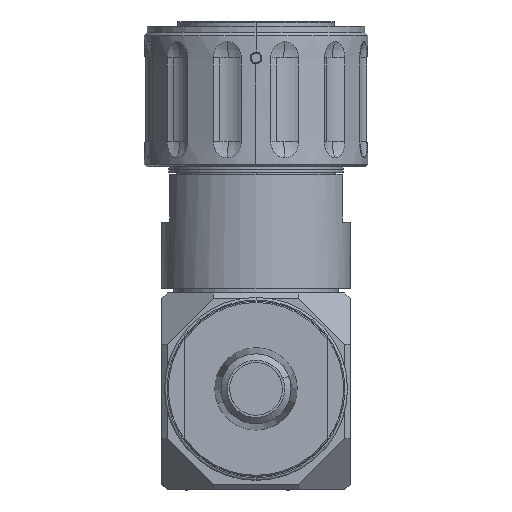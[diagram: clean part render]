
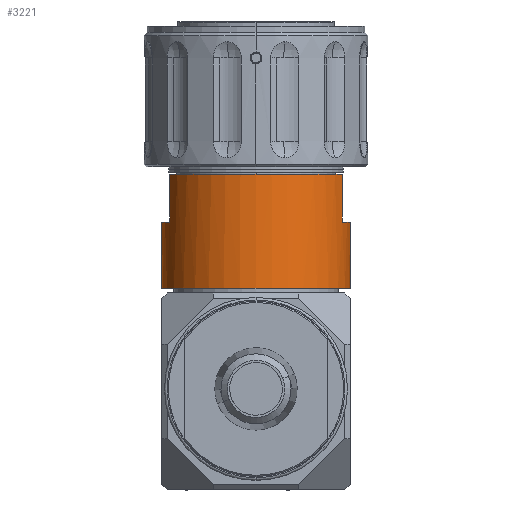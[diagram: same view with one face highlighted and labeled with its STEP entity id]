
A CAD part, front view. The second image highlights one B-rep face of the part: STEP entity #3221.
In plain terms, the highlighted cylindrical face has radius 18.86 mm (diameter 37.719 mm), a partial arc.
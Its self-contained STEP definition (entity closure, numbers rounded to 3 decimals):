
#14 = DIRECTION ( 'NONE',  ( 0., 0., -1. ) ) ;
#19 = LINE ( 'NONE', #4015, #13825 ) ;
#27 = EDGE_CURVE ( 'NONE', #9173, #1377, #9310, .T. ) ;
#86 = CYLINDRICAL_SURFACE ( 'NONE', #6888, 18.86 ) ;
#319 = CARTESIAN_POINT ( 'NONE',  ( -17.208, -7.717, -30.328 ) ) ;
#442 = ORIENTED_EDGE ( 'NONE', *, *, #8864, .F. ) ;
#517 = DIRECTION ( 'NONE',  ( 0., 0., 1. ) ) ;
#732 = EDGE_CURVE ( 'NONE', #4888, #4824, #2454, .T. ) ;
#1268 = DIRECTION ( 'NONE',  ( 0., 0., 1. ) ) ;
#1377 = VERTEX_POINT ( 'NONE', #1720 ) ;
#1604 = ORIENTED_EDGE ( 'NONE', *, *, #3634, .T. ) ;
#1703 = EDGE_LOOP ( 'NONE', ( #442, #13496, #2939, #12282, #4440, #7658, #1604, #5290 ) ) ;
#1720 = CARTESIAN_POINT ( 'NONE',  ( -18.86, 0., -53.01 ) ) ;
#1766 = VERTEX_POINT ( 'NONE', #12785 ) ;
#2021 = VECTOR ( 'NONE', #8207, 1000. ) ;
#2082 = VERTEX_POINT ( 'NONE', #4997 ) ;
#2454 = LINE ( 'NONE', #11315, #13302 ) ;
#2691 = CARTESIAN_POINT ( 'NONE',  ( 18.86, 0., -53.01 ) ) ;
#2939 = ORIENTED_EDGE ( 'NONE', *, *, #4607, .F. ) ;
#3221 = ADVANCED_FACE ( 'NONE', ( #14091 ), #86, .T. ) ;
#3634 = EDGE_CURVE ( 'NONE', #1766, #2082, #10376, .T. ) ;
#3840 = EDGE_CURVE ( 'NONE', #6873, #2082, #3917, .T. ) ;
#3917 = LINE ( 'NONE', #319, #9695 ) ;
#3969 = DIRECTION ( 'NONE',  ( 0., 1., 0. ) ) ;
#4015 = CARTESIAN_POINT ( 'NONE',  ( 17.208, -7.717, -30.328 ) ) ;
#4440 = ORIENTED_EDGE ( 'NONE', *, *, #5731, .F. ) ;
#4607 = EDGE_CURVE ( 'NONE', #4824, #1377, #13826, .T. ) ;
#4641 = DIRECTION ( 'NONE',  ( 0., 0., 1. ) ) ;
#4691 = DIRECTION ( 'NONE',  ( 1., 0., 0. ) ) ;
#4814 = DIRECTION ( 'NONE',  ( 0., 0., -1. ) ) ;
#4824 = VERTEX_POINT ( 'NONE', #2691 ) ;
#4869 = CARTESIAN_POINT ( 'NONE',  ( 17.208, -7.717, -39.853 ) ) ;
#4888 = VERTEX_POINT ( 'NONE', #13731 ) ;
#4997 = CARTESIAN_POINT ( 'NONE',  ( -17.208, -7.717, -30.328 ) ) ;
#5066 = CARTESIAN_POINT ( 'NONE',  ( 0., 0., -39.853 ) ) ;
#5290 = ORIENTED_EDGE ( 'NONE', *, *, #3840, .F. ) ;
#5731 = EDGE_CURVE ( 'NONE', #13428, #4888, #6573, .T. ) ;
#5881 = DIRECTION ( 'NONE',  ( 1., 0., 0. ) ) ;
#6226 = AXIS2_PLACEMENT_3D ( 'NONE', #6650, #14, #4691 ) ;
#6573 = CIRCLE ( 'NONE', #13015, 18.86 ) ;
#6650 = CARTESIAN_POINT ( 'NONE',  ( 0., 0., -53.01 ) ) ;
#6789 = DIRECTION ( 'NONE',  ( 1., 0., 0. ) ) ;
#6873 = VERTEX_POINT ( 'NONE', #12571 ) ;
#6888 = AXIS2_PLACEMENT_3D ( 'NONE', #9985, #9914, #10988 ) ;
#7658 = ORIENTED_EDGE ( 'NONE', *, *, #8671, .F. ) ;
#8133 = CIRCLE ( 'NONE', #8614, 18.86 ) ;
#8207 = DIRECTION ( 'NONE',  ( 0., 0., -1. ) ) ;
#8435 = DIRECTION ( 'NONE',  ( 0., 0., -1. ) ) ;
#8614 = AXIS2_PLACEMENT_3D ( 'NONE', #5066, #517, #3969 ) ;
#8671 = EDGE_CURVE ( 'NONE', #1766, #13428, #19, .T. ) ;
#8864 = EDGE_CURVE ( 'NONE', #9173, #6873, #8133, .T. ) ;
#8976 = CARTESIAN_POINT ( 'NONE',  ( 0., 0., -30.328 ) ) ;
#9173 = VERTEX_POINT ( 'NONE', #13253 ) ;
#9310 = LINE ( 'NONE', #13841, #2021 ) ;
#9695 = VECTOR ( 'NONE', #1268, 1000. ) ;
#9914 = DIRECTION ( 'NONE',  ( 0., 0., -1. ) ) ;
#9985 = CARTESIAN_POINT ( 'NONE',  ( 0., 0., -30.328 ) ) ;
#10376 = CIRCLE ( 'NONE', #11502, 18.86 ) ;
#10988 = DIRECTION ( 'NONE',  ( 1., 0., 0. ) ) ;
#11315 = CARTESIAN_POINT ( 'NONE',  ( 18.86, 0., -30.328 ) ) ;
#11502 = AXIS2_PLACEMENT_3D ( 'NONE', #8976, #13356, #6789 ) ;
#12282 = ORIENTED_EDGE ( 'NONE', *, *, #732, .F. ) ;
#12419 = CARTESIAN_POINT ( 'NONE',  ( 0., 0., -39.853 ) ) ;
#12571 = CARTESIAN_POINT ( 'NONE',  ( -17.208, -7.717, -39.853 ) ) ;
#12785 = CARTESIAN_POINT ( 'NONE',  ( 17.208, -7.717, -30.328 ) ) ;
#13015 = AXIS2_PLACEMENT_3D ( 'NONE', #12419, #4641, #5881 ) ;
#13253 = CARTESIAN_POINT ( 'NONE',  ( -18.86, 0., -39.853 ) ) ;
#13302 = VECTOR ( 'NONE', #4814, 1000. ) ;
#13356 = DIRECTION ( 'NONE',  ( 0., 0., -1. ) ) ;
#13428 = VERTEX_POINT ( 'NONE', #4869 ) ;
#13496 = ORIENTED_EDGE ( 'NONE', *, *, #27, .T. ) ;
#13731 = CARTESIAN_POINT ( 'NONE',  ( 18.86, 0., -39.853 ) ) ;
#13825 = VECTOR ( 'NONE', #8435, 1000. ) ;
#13826 = CIRCLE ( 'NONE', #6226, 18.86 ) ;
#13841 = CARTESIAN_POINT ( 'NONE',  ( -18.86, 0., -30.328 ) ) ;
#14091 = FACE_OUTER_BOUND ( 'NONE', #1703, .T. ) ;
